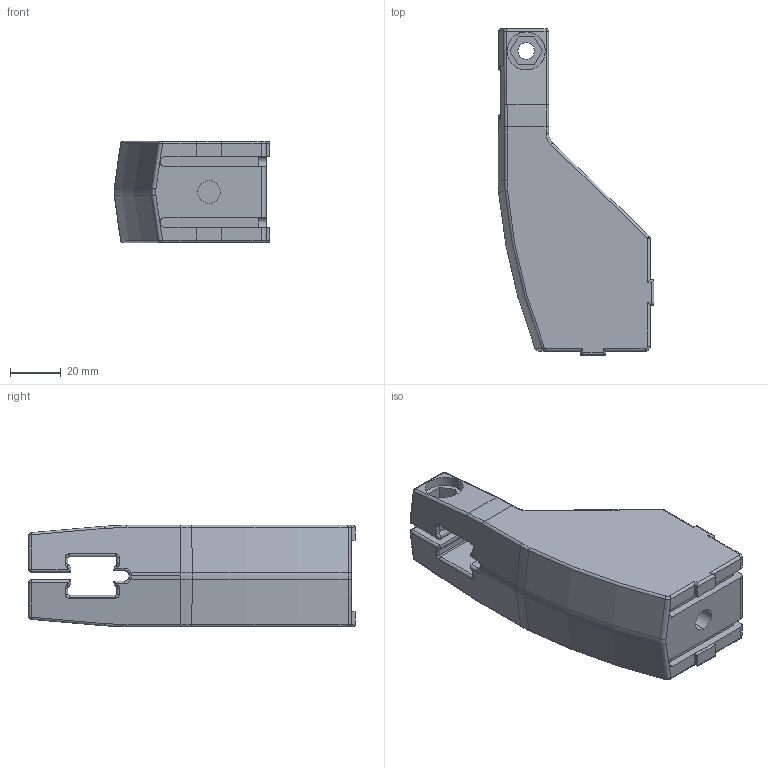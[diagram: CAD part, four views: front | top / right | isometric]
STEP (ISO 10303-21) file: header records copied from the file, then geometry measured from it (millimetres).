
FILE_DESCRIPTION (( 'STEP AP214' ), '1' );
FILE_NAME ('FGRB 40X15X20.step', '2017-04-05T07:37:53', ( '' ), ( '' ), 'SwSTEP 2.0', 'SolidWorks 2015', '' );
FILE_SCHEMA (( 'AUTOMOTIVE_DESIGN' ));
Length unit declared in the file: millimetre
Products named in the file (1): FGRB 40X15X20
Bounding box: 61.4 x 128.5 x 40 mm (x, y, z)
Volume: 156736.8 mm3; surface area: 28629.7 mm2
Topology: 1 solids, 1 shells, 237 faces, 573 edges, 334 vertices
Faces by surface type: cylinder 105, plane 68, torus 28, bspline 22, sphere 10, cone 4
Entity records: 7234 total; most frequent: CARTESIAN_POINT 1920, ORIENTED_EDGE 1130, DIRECTION 1102, EDGE_CURVE 565, AXIS2_PLACEMENT_3D 410, VERTEX_POINT 334, VECTOR 282, LINE 282
